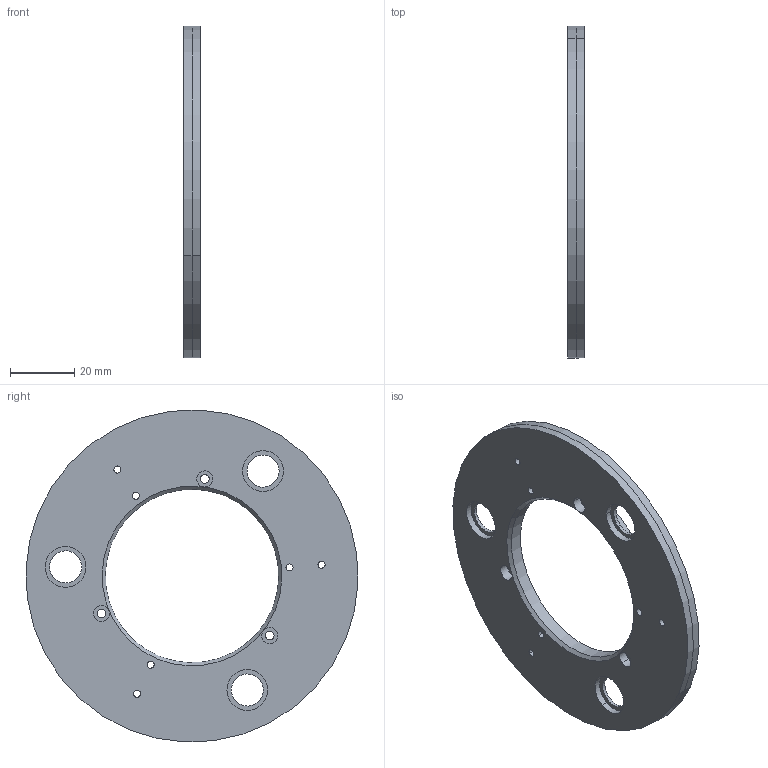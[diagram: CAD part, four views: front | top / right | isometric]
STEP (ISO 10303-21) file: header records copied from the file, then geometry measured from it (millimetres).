
FILE_DESCRIPTION(/* description */ ('VariCAD 2010-1.04 AP-203'),/* implementation_level */ '2;1');
FILE_NAME(/* name */ '0353-10-18',/* time_stamp */ '2010-01-12T20:09:01-07:00',/* author */ (''),/* organization */ (''),/* preprocessor_version */ 'ST-DEVELOPER v12',/* originating_system */ 'VariCAD 2010-1.04; kernel version (20090520)',/* authorisation */ '');
FILE_SCHEMA (('CONFIG_CONTROL_DESIGN'));
Length unit declared in the file: millimetre
Products named in the file (1): Part
Bounding box: 5 x 103.4 x 103.4 mm (x, y, z)
Volume: 20708.5 mm3; surface area: 15869.3 mm2
Topology: 1 solids, 1 shells, 76 faces, 176 edges, 116 vertices
Faces by surface type: cylinder 58, plane 16, cone 2
Entity records: 2322 total; most frequent: DIRECTION 448, CARTESIAN_POINT 370, ORIENTED_EDGE 352, AXIS2_PLACEMENT_3D 194, EDGE_CURVE 176, EDGE_LOOP 116, CIRCLE 116, VERTEX_POINT 116
